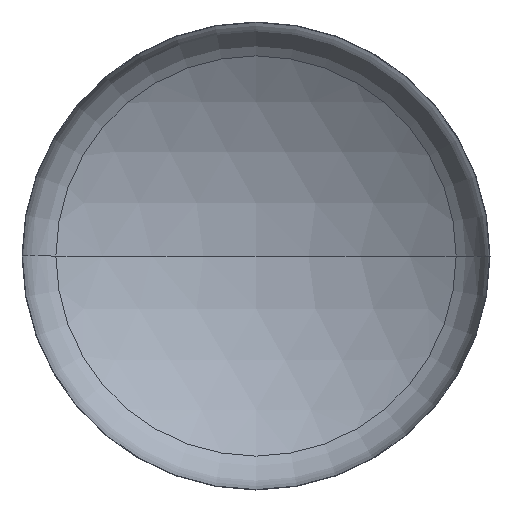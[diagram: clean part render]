
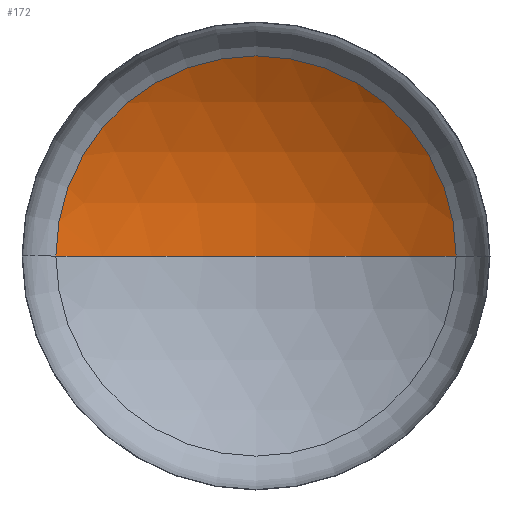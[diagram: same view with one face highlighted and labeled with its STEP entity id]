
A CAD part, front view. The second image highlights one B-rep face of the part: STEP entity #172.
In plain terms, the highlighted spherical face has radius 4400 mm.
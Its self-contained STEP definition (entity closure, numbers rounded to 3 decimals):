
#6 = ORIENTED_EDGE ( 'NONE', *, *, #402, .T. ) ;
#40 = EDGE_LOOP ( 'NONE', ( #46, #266, #6 ) ) ;
#46 = ORIENTED_EDGE ( 'NONE', *, *, #322, .F. ) ;
#47 = CARTESIAN_POINT ( 'NONE',  ( 0., -2984.667, 0. ) ) ;
#60 = CIRCLE ( 'NONE', #343, 2351.617 ) ;
#61 = DIRECTION ( 'NONE',  ( 0., 0., 1. ) ) ;
#69 = CARTESIAN_POINT ( 'NONE',  ( 0., -2984.667, 0. ) ) ;
#71 = VERTEX_POINT ( 'NONE', #152 ) ;
#77 = AXIS2_PLACEMENT_3D ( 'NONE', #47, #262, #223 ) ;
#100 = DIRECTION ( 'NONE',  ( -1., 0., 0. ) ) ;
#152 = CARTESIAN_POINT ( 'NONE',  ( 2351.617, 734.19, 0. ) ) ;
#158 = DIRECTION ( 'NONE',  ( 0., -1., 0. ) ) ;
#172 = ADVANCED_FACE ( 'NONE', ( #404 ), #387, .F. ) ;
#176 = CARTESIAN_POINT ( 'NONE',  ( 0., 1415.333, 0. ) ) ;
#177 = CARTESIAN_POINT ( 'NONE',  ( -2351.617, 734.19, 0. ) ) ;
#209 = VERTEX_POINT ( 'NONE', #176 ) ;
#223 = DIRECTION ( 'NONE',  ( -1., 0., 0. ) ) ;
#225 = AXIS2_PLACEMENT_3D ( 'NONE', #243, #61, #274 ) ;
#228 = CIRCLE ( 'NONE', #77, 4400. ) ;
#243 = CARTESIAN_POINT ( 'NONE',  ( 0., -2984.667, 0. ) ) ;
#251 = VERTEX_POINT ( 'NONE', #177 ) ;
#252 = EDGE_CURVE ( 'NONE', #209, #71, #228, .T. ) ;
#262 = DIRECTION ( 'NONE',  ( 0., 0., -1. ) ) ;
#266 = ORIENTED_EDGE ( 'NONE', *, *, #252, .T. ) ;
#274 = DIRECTION ( 'NONE',  ( 1., 0., 0. ) ) ;
#322 = EDGE_CURVE ( 'NONE', #209, #251, #336, .T. ) ;
#336 = CIRCLE ( 'NONE', #225, 4400. ) ;
#343 = AXIS2_PLACEMENT_3D ( 'NONE', #347, #158, #380 ) ;
#347 = CARTESIAN_POINT ( 'NONE',  ( 0., 734.19, 0. ) ) ;
#355 = AXIS2_PLACEMENT_3D ( 'NONE', #69, #384, #100 ) ;
#380 = DIRECTION ( 'NONE',  ( 1., 0., 0. ) ) ;
#384 = DIRECTION ( 'NONE',  ( 0., 0., -1. ) ) ;
#387 = SPHERICAL_SURFACE ( 'NONE', #355, 4400. ) ;
#402 = EDGE_CURVE ( 'NONE', #71, #251, #60, .T. ) ;
#404 = FACE_OUTER_BOUND ( 'NONE', #40, .T. ) ;
